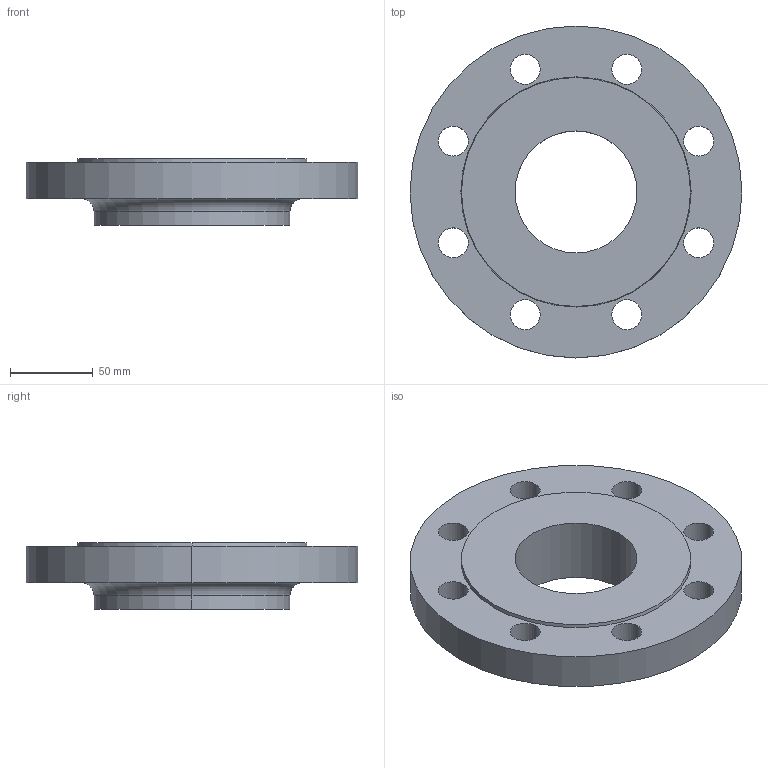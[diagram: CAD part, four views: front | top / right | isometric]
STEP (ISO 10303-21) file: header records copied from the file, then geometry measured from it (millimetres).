
FILE_DESCRIPTION (( 'STEP AP214' ), '1' );
FILE_NAME ('PN40 DN80 Type 13 - Type B Face.STEP', '2019-01-01T19:38:34', ( '' ), ( '' ), 'SwSTEP 2.0', 'SolidWorks 2019', '' );
FILE_SCHEMA (( 'AUTOMOTIVE_DESIGN' ));
Length unit declared in the file: millimetre
Products named in the file (1): PN40 DN80 Type 13 - Type B Face
Bounding box: 200 x 200 x 40 mm (x, y, z)
Volume: 686911.3 mm3; surface area: 88702.2 mm2
Topology: 1 solids, 1 shells, 30 faces, 76 edges, 50 vertices
Faces by surface type: cylinder 22, plane 4, torus 2, cone 2
Entity records: 1006 total; most frequent: DIRECTION 190, CARTESIAN_POINT 157, ORIENTED_EDGE 152, AXIS2_PLACEMENT_3D 83, EDGE_CURVE 76, CIRCLE 52, EDGE_LOOP 50, VERTEX_POINT 50
